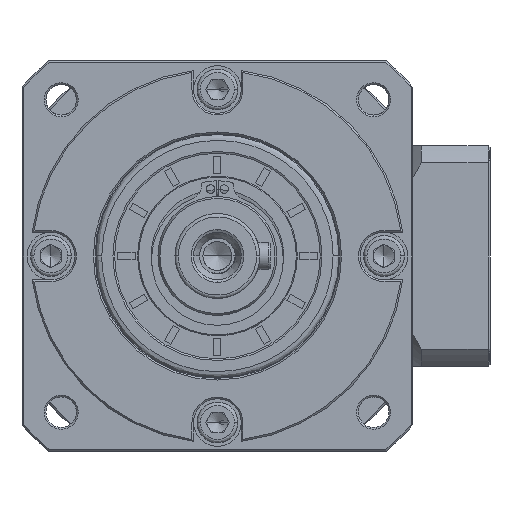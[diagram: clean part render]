
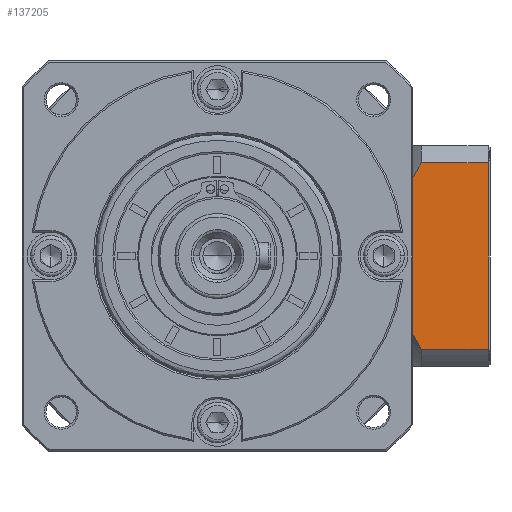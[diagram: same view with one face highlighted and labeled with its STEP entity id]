
A CAD part, left-side view. The second image highlights one B-rep face of the part: STEP entity #137205.
In plain terms, the highlighted planar face has unit normal (-1, 0, 0).
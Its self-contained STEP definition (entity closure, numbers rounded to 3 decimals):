
#69 = EDGE_CURVE ( 'NONE', #70895, #120464, #67994, .T. ) ;
#4598 = CARTESIAN_POINT ( 'NONE',  ( -9.104, -85.484, -167.349 ) ) ;
#5409 = B_SPLINE_CURVE_WITH_KNOTS ( 'NONE', 3,
 ( #119037, #119617, #49321, #147949, #63494, #162136, #77645, #176364 ),
 .UNSPECIFIED., .F., .F.,
 ( 4, 2, 2, 4 ),
 ( 0.058, 0.062, 0.066, 0.074 ),
 .UNSPECIFIED. ) ;
#7649 = VERTEX_POINT ( 'NONE', #8845 ) ;
#8845 = CARTESIAN_POINT ( 'NONE',  ( -9.104, -65.784, -107.462 ) ) ;
#11439 = PLANE ( 'NONE',  #97509 ) ;
#12311 = FACE_OUTER_BOUND ( 'NONE', #64429, .T. ) ;
#13564 = CARTESIAN_POINT ( 'NONE',  ( -9.104, -65.784, -162.235 ) ) ;
#14990 = LINE ( 'NONE', #63914, #85765 ) ;
#17449 = B_SPLINE_CURVE_WITH_KNOTS ( 'NONE', 3,
 ( #17807, #102414, #130791, #46260, #144949, #60398, #159089, #74639, #173295, #88863 ),
 .UNSPECIFIED., .F., .F.,
 ( 4, 2, 2, 2, 4 ),
 ( 0.101, 0.103, 0.105, 0.109, 0.117 ),
 .UNSPECIFIED. ) ;
#17807 = CARTESIAN_POINT ( 'NONE',  ( -9.104, -58.284, -147.839 ) ) ;
#20689 = DIRECTION ( 'NONE',  ( 0., 1., 0. ) ) ;
#21898 = DIRECTION ( 'NONE',  ( 0., -1., 0. ) ) ;
#25733 = DIRECTION ( 'NONE',  ( 1., 0., 0. ) ) ;
#28650 = CARTESIAN_POINT ( 'NONE',  ( -9.104, -43.784, -167.349 ) ) ;
#30409 = VECTOR ( 'NONE', #153882, 1000. ) ;
#32166 = EDGE_CURVE ( 'NONE', #7649, #113676, #42669, .T. ) ;
#33743 = EDGE_CURVE ( 'NONE', #100591, #120464, #135263, .T. ) ;
#34089 = VECTOR ( 'NONE', #41352, 1000. ) ;
#34909 = CARTESIAN_POINT ( 'NONE',  ( -9.104, -43.784, -121.858 ) ) ;
#41352 = DIRECTION ( 'NONE',  ( 0., -1., 0. ) ) ;
#42669 = LINE ( 'NONE', #119998, #146360 ) ;
#42857 = DIRECTION ( 'NONE',  ( 0., 0., -1. ) ) ;
#46260 = CARTESIAN_POINT ( 'NONE',  ( -9.104, -59.301, -150.381 ) ) ;
#47399 = VERTEX_POINT ( 'NONE', #117817 ) ;
#49321 = CARTESIAN_POINT ( 'NONE',  ( -9.104, -64.336, -109.752 ) ) ;
#60398 = CARTESIAN_POINT ( 'NONE',  ( -9.104, -60.425, -152.859 ) ) ;
#60767 = ORIENTED_EDGE ( 'NONE', *, *, #32166, .F. ) ;
#62786 = VERTEX_POINT ( 'NONE', #13564 ) ;
#63494 = CARTESIAN_POINT ( 'NONE',  ( -9.104, -62.281, -113.272 ) ) ;
#63914 = CARTESIAN_POINT ( 'NONE',  ( -9.104, -58.284, -162.235 ) ) ;
#64065 = CARTESIAN_POINT ( 'NONE',  ( -9.104, -58.284, -121.858 ) ) ;
#64429 = EDGE_LOOP ( 'NONE', ( #108620, #96923, #60767, #179567, #112889, #102846, #137191, #91447 ) ) ;
#65742 = EDGE_CURVE ( 'NONE', #100591, #90794, #76027, .T. ) ;
#67994 = LINE ( 'NONE', #69424, #30409 ) ;
#69424 = CARTESIAN_POINT ( 'NONE',  ( -9.104, -58.284, -147.839 ) ) ;
#70895 = VERTEX_POINT ( 'NONE', #125668 ) ;
#74639 = CARTESIAN_POINT ( 'NONE',  ( -9.104, -62.935, -157.652 ) ) ;
#76027 = LINE ( 'NONE', #167759, #34089 ) ;
#76067 = EDGE_CURVE ( 'NONE', #70895, #62786, #17449, .T. ) ;
#76527 = EDGE_CURVE ( 'NONE', #47399, #113676, #130276, .T. ) ;
#77645 = CARTESIAN_POINT ( 'NONE',  ( -9.104, -59.226, -119.32 ) ) ;
#85765 = VECTOR ( 'NONE', #20689, 1000. ) ;
#88863 = CARTESIAN_POINT ( 'NONE',  ( -9.104, -65.784, -162.235 ) ) ;
#90794 = VERTEX_POINT ( 'NONE', #64065 ) ;
#91447 = ORIENTED_EDGE ( 'NONE', *, *, #76067, .T. ) ;
#92773 = VECTOR ( 'NONE', #146002, 1000. ) ;
#96923 = ORIENTED_EDGE ( 'NONE', *, *, #76527, .T. ) ;
#97509 = AXIS2_PLACEMENT_3D ( 'NONE', #110259, #25733, #124461 ) ;
#100591 = VERTEX_POINT ( 'NONE', #34909 ) ;
#100645 = EDGE_CURVE ( 'NONE', #47399, #62786, #14990, .T. ) ;
#102414 = CARTESIAN_POINT ( 'NONE',  ( -9.104, -58.523, -148.481 ) ) ;
#102846 = ORIENTED_EDGE ( 'NONE', *, *, #33743, .T. ) ;
#108620 = ORIENTED_EDGE ( 'NONE', *, *, #100645, .F. ) ;
#110259 = CARTESIAN_POINT ( 'NONE',  ( -9.104, -85.984, -167.349 ) ) ;
#112889 = ORIENTED_EDGE ( 'NONE', *, *, #65742, .F. ) ;
#113676 = VERTEX_POINT ( 'NONE', #114440 ) ;
#114440 = CARTESIAN_POINT ( 'NONE',  ( -9.104, -85.484, -107.462 ) ) ;
#117817 = CARTESIAN_POINT ( 'NONE',  ( -9.104, -85.484, -162.235 ) ) ;
#119037 = CARTESIAN_POINT ( 'NONE',  ( -9.104, -65.784, -107.462 ) ) ;
#119617 = CARTESIAN_POINT ( 'NONE',  ( -9.104, -65.051, -108.601 ) ) ;
#119998 = CARTESIAN_POINT ( 'NONE',  ( -9.104, -58.284, -107.462 ) ) ;
#120464 = VERTEX_POINT ( 'NONE', #121450 ) ;
#121450 = CARTESIAN_POINT ( 'NONE',  ( -9.104, -43.784, -147.839 ) ) ;
#124461 = DIRECTION ( 'NONE',  ( 0., 1., 0. ) ) ;
#125668 = CARTESIAN_POINT ( 'NONE',  ( -9.104, -58.284, -147.839 ) ) ;
#130276 = LINE ( 'NONE', #4598, #92773 ) ;
#130791 = CARTESIAN_POINT ( 'NONE',  ( -9.104, -58.775, -149.12 ) ) ;
#135263 = LINE ( 'NONE', #28650, #163894 ) ;
#137191 = ORIENTED_EDGE ( 'NONE', *, *, #69, .F. ) ;
#137205 = ADVANCED_FACE ( 'NONE', ( #12311 ), #11439, .F. ) ;
#143976 = EDGE_CURVE ( 'NONE', #7649, #90794, #5409, .T. ) ;
#144949 = CARTESIAN_POINT ( 'NONE',  ( -9.104, -59.575, -151.005 ) ) ;
#146002 = DIRECTION ( 'NONE',  ( 0., 0., 1. ) ) ;
#146360 = VECTOR ( 'NONE', #21898, 1000. ) ;
#147949 = CARTESIAN_POINT ( 'NONE',  ( -9.104, -62.951, -112.087 ) ) ;
#153882 = DIRECTION ( 'NONE',  ( 0., 1., 0. ) ) ;
#159089 = CARTESIAN_POINT ( 'NONE',  ( -9.104, -61.03, -154.071 ) ) ;
#162136 = CARTESIAN_POINT ( 'NONE',  ( -9.104, -60.371, -116.868 ) ) ;
#163894 = VECTOR ( 'NONE', #42857, 1000. ) ;
#167759 = CARTESIAN_POINT ( 'NONE',  ( -9.104, -58.284, -121.858 ) ) ;
#173295 = CARTESIAN_POINT ( 'NONE',  ( -9.104, -64.323, -159.966 ) ) ;
#176364 = CARTESIAN_POINT ( 'NONE',  ( -9.104, -58.284, -121.858 ) ) ;
#179567 = ORIENTED_EDGE ( 'NONE', *, *, #143976, .T. ) ;
